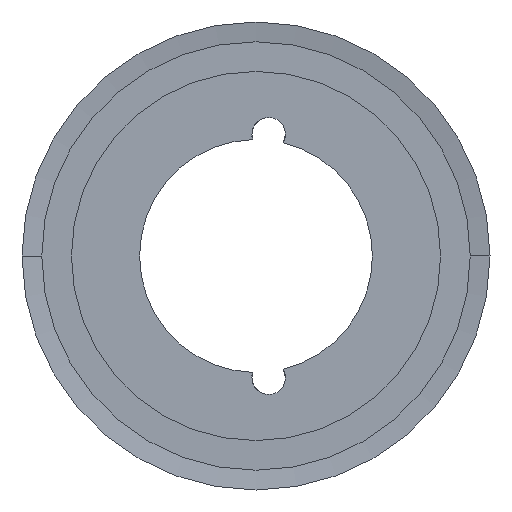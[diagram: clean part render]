
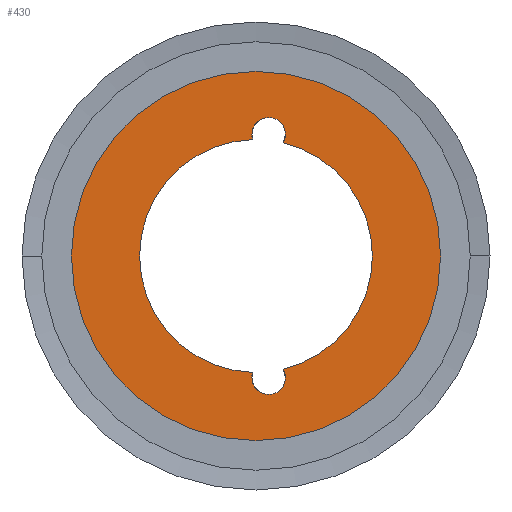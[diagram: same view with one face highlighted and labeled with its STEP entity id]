
A CAD part, left-side view. The second image highlights one B-rep face of the part: STEP entity #430.
In plain terms, the highlighted planar face has unit normal (-1, 0, 0).
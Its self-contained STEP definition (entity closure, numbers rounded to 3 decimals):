
#430 = ADVANCED_FACE( '', ( #1147, #1148 ), #1149, .T. );
#1147 = FACE_BOUND( '', #1865, .T. );
#1148 = FACE_OUTER_BOUND( '', #1866, .T. );
#1149 = PLANE( '', #1867 );
#1865 = EDGE_LOOP( '', ( #5003, #5004, #5005, #5006, #5007, #5008, #5009, #5010, #5011, #5012 ) );
#1866 = EDGE_LOOP( '', ( #5013, #5014 ) );
#1867 = AXIS2_PLACEMENT_3D( '', #5015, #5016, #5017 );
#5003 = ORIENTED_EDGE( '', *, *, #5076, .T. );
#5004 = ORIENTED_EDGE( '', *, *, #5079, .T. );
#5005 = ORIENTED_EDGE( '', *, *, #5078, .T. );
#5006 = ORIENTED_EDGE( '', *, *, #5071, .F. );
#5007 = ORIENTED_EDGE( '', *, *, #5083, .F. );
#5008 = ORIENTED_EDGE( '', *, *, #5087, .T. );
#5009 = ORIENTED_EDGE( '', *, *, #5063, .T. );
#5010 = ORIENTED_EDGE( '', *, *, #5058, .T. );
#5011 = ORIENTED_EDGE( '', *, *, #5084, .F. );
#5012 = ORIENTED_EDGE( '', *, *, #5069, .F. );
#5013 = ORIENTED_EDGE( '', *, *, #5021, .T. );
#5014 = ORIENTED_EDGE( '', *, *, #6058, .T. );
#5015 = CARTESIAN_POINT( '', ( 0., 22.831, 0. ) );
#5016 = DIRECTION( '', ( -1., 0., 0. ) );
#5017 = DIRECTION( '', ( 0., 1., 0. ) );
#5021 = EDGE_CURVE( '', #6060, #6064, #6066, .T. );
#5058 = EDGE_CURVE( '', #6128, #6131, #6133, .T. );
#5063 = EDGE_CURVE( '', #6135, #6128, #6142, .T. );
#5069 = EDGE_CURVE( '', #6151, #6143, #6153, .T. );
#5071 = EDGE_CURVE( '', #6154, #6157, #6158, .T. );
#5076 = EDGE_CURVE( '', #6151, #6164, #6166, .T. );
#5078 = EDGE_CURVE( '', #6167, #6157, #6169, .T. );
#5079 = EDGE_CURVE( '', #6164, #6167, #6170, .T. );
#5083 = EDGE_CURVE( '', #6173, #6154, #6175, .T. );
#5084 = EDGE_CURVE( '', #6143, #6131, #6176, .T. );
#5087 = EDGE_CURVE( '', #6173, #6135, #6179, .T. );
#6058 = EDGE_CURVE( '', #6064, #6060, #7790, .T. );
#6060 = VERTEX_POINT( '', #7792 );
#6064 = VERTEX_POINT( '', #7797 );
#6066 = CIRCLE( '', #7800, 28. );
#6128 = VERTEX_POINT( '', #7909 );
#6131 = VERTEX_POINT( '', #7913 );
#6133 = CIRCLE( '', #7924, 2.55 );
#6135 = VERTEX_POINT( '', #7926 );
#6142 = CIRCLE( '', #7952, 2.55 );
#6143 = VERTEX_POINT( '', #7953 );
#6151 = VERTEX_POINT( '', #7976 );
#6153 = CIRCLE( '', #7987, 17.662 );
#6154 = VERTEX_POINT( '', #7988 );
#6157 = VERTEX_POINT( '', #7992 );
#6158 = CIRCLE( '', #7993, 17.662 );
#6164 = VERTEX_POINT( '', #8017 );
#6166 = CIRCLE( '', #8020, 2.55 );
#6167 = VERTEX_POINT( '', #8021 );
#6169 = CIRCLE( '', #8024, 2.55 );
#6170 = CIRCLE( '', #8025, 2.55 );
#6173 = VERTEX_POINT( '', #8028 );
#6175 = CIRCLE( '', #8039, 17.662 );
#6176 = CIRCLE( '', #8040, 17.662 );
#6179 = CIRCLE( '', #8068, 2.55 );
#7790 = CIRCLE( '', #10239, 28. );
#7792 = CARTESIAN_POINT( '', ( 0., 28., 0. ) );
#7797 = CARTESIAN_POINT( '', ( 0., -28., 0. ) );
#7800 = AXIS2_PLACEMENT_3D( '', #10245, #10246, #10247 );
#7909 = CARTESIAN_POINT( '', ( 0., 0.625, -18.46 ) );
#7913 = CARTESIAN_POINT( '', ( 0., 0.495, -17.655 ) );
#7924 = AXIS2_PLACEMENT_3D( '', #10311, #10312, #10313 );
#7926 = CARTESIAN_POINT( '', ( 0., -4.475, -18.46 ) );
#7952 = AXIS2_PLACEMENT_3D( '', #10318, #10319, #10320 );
#7953 = CARTESIAN_POINT( '', ( 0., 17.662, 0. ) );
#7976 = CARTESIAN_POINT( '', ( 0., 0.495, 17.655 ) );
#7987 = AXIS2_PLACEMENT_3D( '', #10325, #10326, #10327 );
#7988 = CARTESIAN_POINT( '', ( 0., -17.662, 0. ) );
#7992 = CARTESIAN_POINT( '', ( 0., -4.126, 17.173 ) );
#7993 = AXIS2_PLACEMENT_3D( '', #10329, #10330, #10331 );
#8017 = CARTESIAN_POINT( '', ( 0., 0.625, 18.46 ) );
#8020 = AXIS2_PLACEMENT_3D( '', #10336, #10337, #10338 );
#8021 = CARTESIAN_POINT( '', ( 0., -4.475, 18.46 ) );
#8024 = AXIS2_PLACEMENT_3D( '', #10340, #10341, #10342 );
#8025 = AXIS2_PLACEMENT_3D( '', #10343, #10344, #10345 );
#8028 = CARTESIAN_POINT( '', ( 0., -4.126, -17.173 ) );
#8039 = AXIS2_PLACEMENT_3D( '', #10352, #10353, #10354 );
#8040 = AXIS2_PLACEMENT_3D( '', #10355, #10356, #10357 );
#8068 = AXIS2_PLACEMENT_3D( '', #10361, #10362, #10363 );
#10239 = AXIS2_PLACEMENT_3D( '', #12154, #12155, #12156 );
#10245 = CARTESIAN_POINT( '', ( 0., 0., 0. ) );
#10246 = DIRECTION( '', ( -1., 0., 0. ) );
#10247 = DIRECTION( '', ( 0., 1., 0. ) );
#10311 = CARTESIAN_POINT( '', ( 0., -1.925, -18.46 ) );
#10312 = DIRECTION( '', ( 1., 0., 0. ) );
#10313 = DIRECTION( '', ( 0., -1., 0. ) );
#10318 = CARTESIAN_POINT( '', ( 0., -1.925, -18.46 ) );
#10319 = DIRECTION( '', ( 1., 0., 0. ) );
#10320 = DIRECTION( '', ( 0., -1., 0. ) );
#10325 = CARTESIAN_POINT( '', ( 0., 0., 0. ) );
#10326 = DIRECTION( '', ( -1., 0., 0. ) );
#10327 = DIRECTION( '', ( 0., 1., 0. ) );
#10329 = CARTESIAN_POINT( '', ( 0., 0., 0. ) );
#10330 = DIRECTION( '', ( -1., 0., 0. ) );
#10331 = DIRECTION( '', ( 0., 1., 0. ) );
#10336 = CARTESIAN_POINT( '', ( 0., -1.925, 18.46 ) );
#10337 = DIRECTION( '', ( 1., 0., 0. ) );
#10338 = DIRECTION( '', ( 0., -1., 0. ) );
#10340 = CARTESIAN_POINT( '', ( 0., -1.925, 18.46 ) );
#10341 = DIRECTION( '', ( 1., 0., 0. ) );
#10342 = DIRECTION( '', ( 0., -1., 0. ) );
#10343 = CARTESIAN_POINT( '', ( 0., -1.925, 18.46 ) );
#10344 = DIRECTION( '', ( 1., 0., 0. ) );
#10345 = DIRECTION( '', ( 0., -1., 0. ) );
#10352 = CARTESIAN_POINT( '', ( 0., 0., 0. ) );
#10353 = DIRECTION( '', ( -1., 0., 0. ) );
#10354 = DIRECTION( '', ( 0., 1., 0. ) );
#10355 = CARTESIAN_POINT( '', ( 0., 0., 0. ) );
#10356 = DIRECTION( '', ( -1., 0., 0. ) );
#10357 = DIRECTION( '', ( 0., 1., 0. ) );
#10361 = CARTESIAN_POINT( '', ( 0., -1.925, -18.46 ) );
#10362 = DIRECTION( '', ( 1., 0., 0. ) );
#10363 = DIRECTION( '', ( 0., -1., 0. ) );
#12154 = CARTESIAN_POINT( '', ( 0., 0., 0. ) );
#12155 = DIRECTION( '', ( -1., 0., 0. ) );
#12156 = DIRECTION( '', ( 0., 1., 0. ) );
